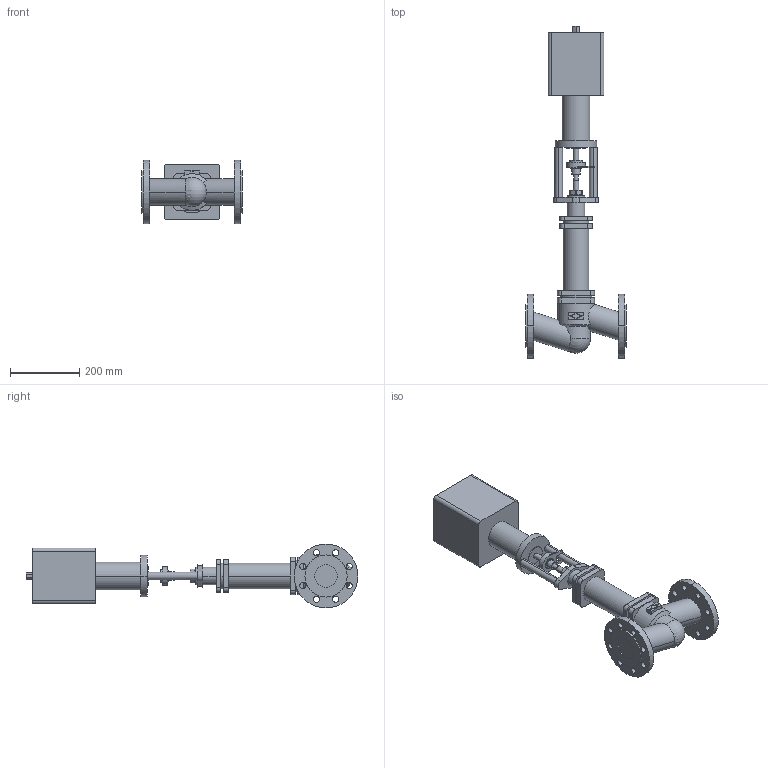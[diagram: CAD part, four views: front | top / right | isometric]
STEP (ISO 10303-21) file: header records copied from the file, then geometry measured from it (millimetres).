
FILE_DESCRIPTION( ( '' ), '1' );
FILE_NAME( 'F:/DE-SHS/TB/OR/04-Sonstiges/daten/files_3d/441-FR2.2/441-PN25-FR2_2/c000004560.stp', '2014-11-06T11:28:50', ( '' ), ( '' ), ' ', ' ', ' ' );
FILE_SCHEMA( ( 'CONFIG_CONTROL_DESIGN' ) );
Length unit declared in the file: millimetre
Products named in the file (2): 1; 2
Bounding box: 290 x 961 x 185 mm (x, y, z)
Volume: 10243339.6 mm3; surface area: 596542.1 mm2
Topology: 2 solids, 2 shells, 218 faces, 545 edges, 361 vertices
Faces by surface type: cylinder 118, plane 97, cone 2, sphere 1
Entity records: 7247 total; most frequent: CARTESIAN_POINT 1656, DIRECTION 1217, ORIENTED_EDGE 1086, EDGE_CURVE 543, AXIS2_PLACEMENT_3D 468, VERTEX_POINT 361, EDGE_LOOP 282, LINE 281
